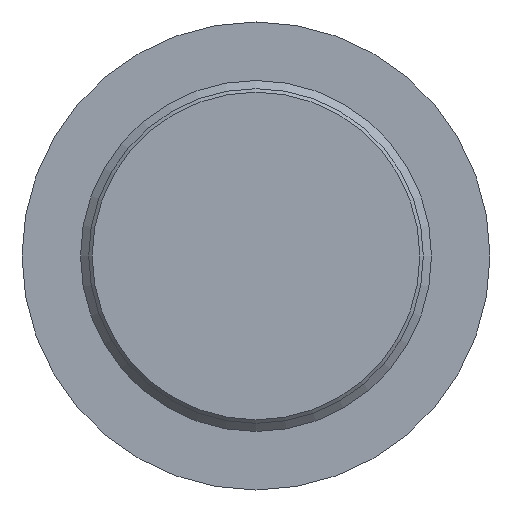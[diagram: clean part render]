
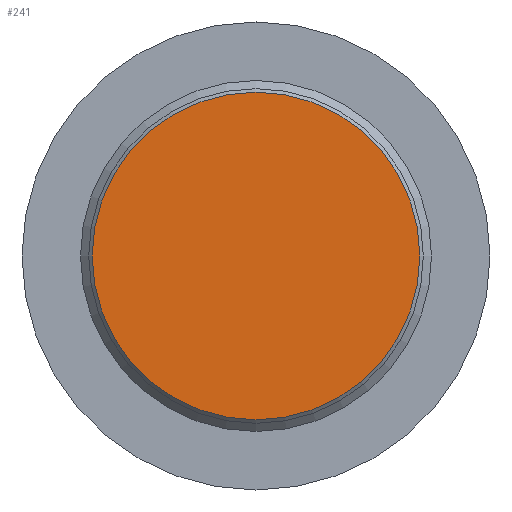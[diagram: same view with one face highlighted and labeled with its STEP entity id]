
A CAD part, front view. The second image highlights one B-rep face of the part: STEP entity #241.
In plain terms, the highlighted planar face has unit normal (0, -1, 0).
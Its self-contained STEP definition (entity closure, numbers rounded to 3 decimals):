
#26=PLANE('',#279);
#34=FACE_OUTER_BOUND('',#49,.T.);
#49=EDGE_LOOP('',(#175));
#86=CIRCLE('',#278,7.);
#112=VERTEX_POINT('',#414);
#139=EDGE_CURVE('',#112,#112,#86,.T.);
#175=ORIENTED_EDGE('',*,*,#139,.F.);
#241=ADVANCED_FACE('',(#34),#26,.T.);
#278=AXIS2_PLACEMENT_3D('',#416,#325,#326);
#279=AXIS2_PLACEMENT_3D('',#417,#327,#328);
#325=DIRECTION('center_axis',(0.,1.,0.));
#326=DIRECTION('ref_axis',(0.,0.,-1.));
#327=DIRECTION('center_axis',(0.,-1.,0.));
#328=DIRECTION('ref_axis',(0.,0.,-1.));
#414=CARTESIAN_POINT('',(0.,-800.,7.));
#416=CARTESIAN_POINT('Origin',(0.,-800.,0.));
#417=CARTESIAN_POINT('Origin',(0.,-800.,7.5));
